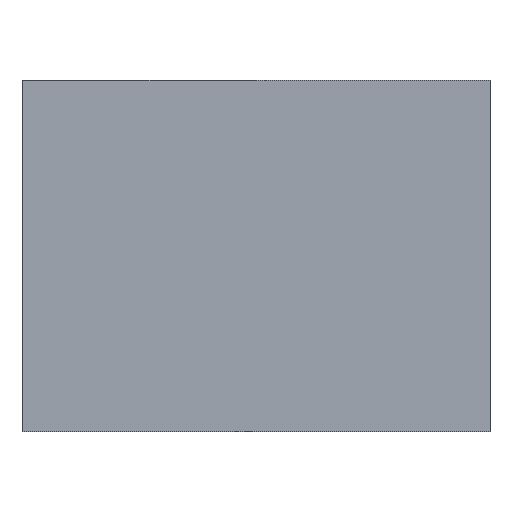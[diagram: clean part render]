
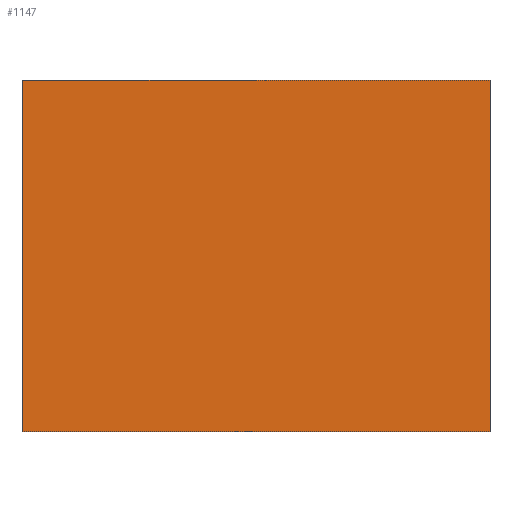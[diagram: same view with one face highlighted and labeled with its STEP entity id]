
A CAD part, front view. The second image highlights one B-rep face of the part: STEP entity #1147.
In plain terms, the highlighted planar face has unit normal (0, -1, 0).
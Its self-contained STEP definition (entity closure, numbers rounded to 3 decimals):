
#92 = LINE ( 'NONE', #104, #2382 ) ;
#104 = CARTESIAN_POINT ( 'NONE',  ( -80., 0., -60. ) ) ;
#292 = LINE ( 'NONE', #1793, #343 ) ;
#343 = VECTOR ( 'NONE', #1805, 1000. ) ;
#383 = LINE ( 'NONE', #2230, #562 ) ;
#489 = LINE ( 'NONE', #1803, #2015 ) ;
#506 = EDGE_CURVE ( 'NONE', #2216, #2413, #92, .T. ) ;
#562 = VECTOR ( 'NONE', #2404, 1000. ) ;
#565 = DIRECTION ( 'NONE',  ( 0., 1., 0. ) ) ;
#608 = CARTESIAN_POINT ( 'NONE',  ( -80., 0., 60. ) ) ;
#668 = VERTEX_POINT ( 'NONE', #1588 ) ;
#691 = EDGE_CURVE ( 'NONE', #668, #1409, #489, .T. ) ;
#711 = ORIENTED_EDGE ( 'NONE', *, *, #1354, .F. ) ;
#728 = PLANE ( 'NONE',  #2278 ) ;
#885 = FACE_OUTER_BOUND ( 'NONE', #1090, .T. ) ;
#896 = CARTESIAN_POINT ( 'NONE',  ( 0., 0., 0. ) ) ;
#1038 = ORIENTED_EDGE ( 'NONE', *, *, #506, .F. ) ;
#1078 = EDGE_CURVE ( 'NONE', #2413, #668, #383, .T. ) ;
#1090 = EDGE_LOOP ( 'NONE', ( #2399, #2289, #1038, #711 ) ) ;
#1147 = ADVANCED_FACE ( 'NONE', ( #885 ), #728, .F. ) ;
#1263 = DIRECTION ( 'NONE',  ( 0., 0., 1. ) ) ;
#1286 = DIRECTION ( 'NONE',  ( 0., 0., 1. ) ) ;
#1354 = EDGE_CURVE ( 'NONE', #1409, #2216, #292, .T. ) ;
#1358 = CARTESIAN_POINT ( 'NONE',  ( 80., 0., -60. ) ) ;
#1409 = VERTEX_POINT ( 'NONE', #1358 ) ;
#1588 = CARTESIAN_POINT ( 'NONE',  ( 80., 0., 60. ) ) ;
#1793 = CARTESIAN_POINT ( 'NONE',  ( -80., 0., -60. ) ) ;
#1803 = CARTESIAN_POINT ( 'NONE',  ( 80., 0., -60. ) ) ;
#1805 = DIRECTION ( 'NONE',  ( -1., 0., 0. ) ) ;
#1868 = CARTESIAN_POINT ( 'NONE',  ( -80., 0., -60. ) ) ;
#2015 = VECTOR ( 'NONE', #2205, 1000. ) ;
#2205 = DIRECTION ( 'NONE',  ( 0., 0., -1. ) ) ;
#2216 = VERTEX_POINT ( 'NONE', #1868 ) ;
#2230 = CARTESIAN_POINT ( 'NONE',  ( -80., 0., 60. ) ) ;
#2278 = AXIS2_PLACEMENT_3D ( 'NONE', #896, #565, #1286 ) ;
#2289 = ORIENTED_EDGE ( 'NONE', *, *, #1078, .F. ) ;
#2382 = VECTOR ( 'NONE', #1263, 1000. ) ;
#2399 = ORIENTED_EDGE ( 'NONE', *, *, #691, .F. ) ;
#2404 = DIRECTION ( 'NONE',  ( 1., 0., 0. ) ) ;
#2413 = VERTEX_POINT ( 'NONE', #608 ) ;
